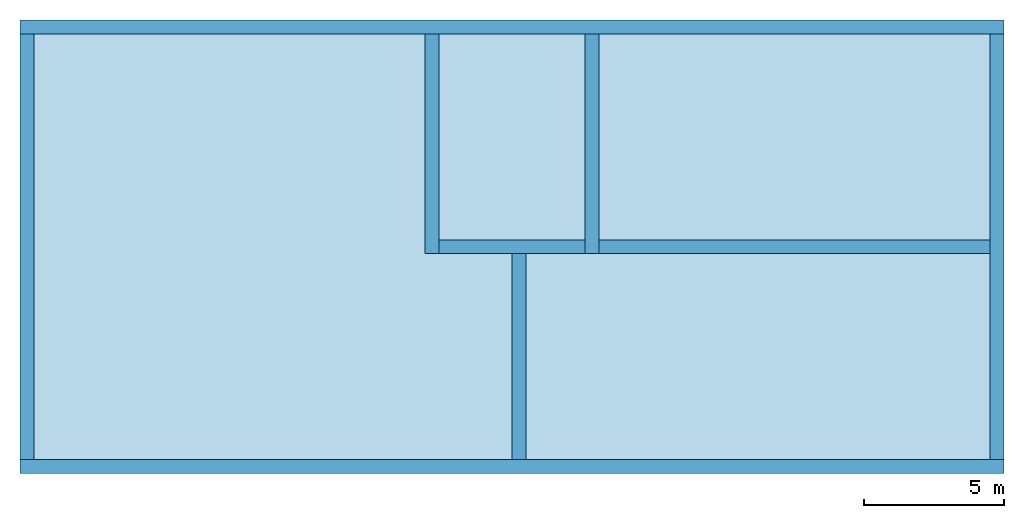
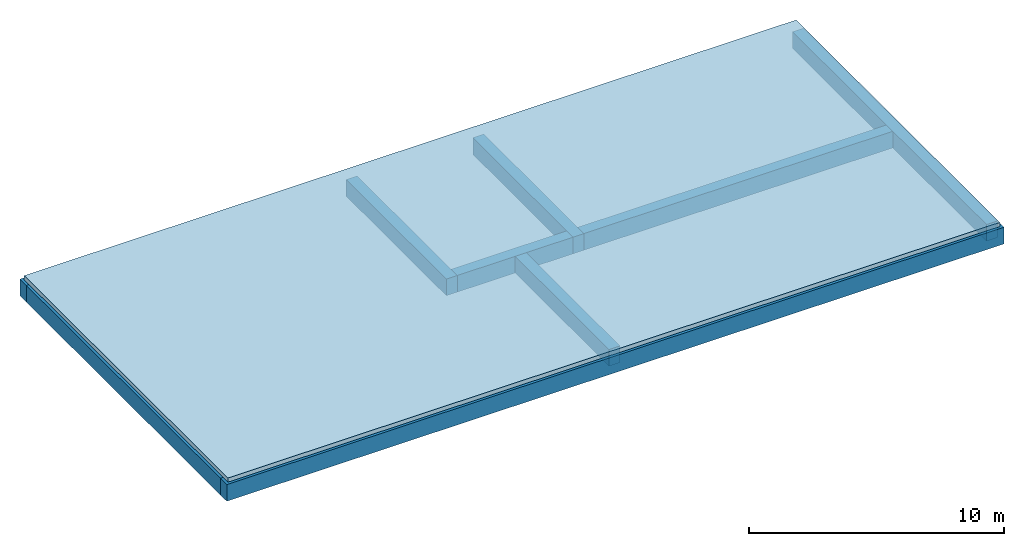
# One storey: 9 beams, 1 slab.
"""IFC4 building model written with IfcOpenShell, lengths in metres."""

from ifc_helpers import new_model, entity, si_unit, converted_unit, frame, origin_with_axes, origin_2d_with_axis, place, context, subcontext, project, spatial, line, indexed_curve, rectangle, outline, extrude, material, layer, layer_set, layer_usage, material_profile, profile_set, profile_usage, type_object, element, save


model = new_model("IFC4")

# Units and contexts
model_context = context("Model", 3, precision=1e-05, world=origin_with_axes())
plan_context = context("Plan", 2, precision=1e-05, world=origin_2d_with_axis())
body_context = subcontext(model_context, "Body", "Model", "MODEL_VIEW")
ifc_project = project(units=[converted_unit("PLANEANGLEUNIT", "degree", entity("IfcReal", 0.0174532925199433), si_unit("PLANEANGLEUNIT", "RADIAN"), dimensions=[0, 0, 0, 0, 0, 0, 0]), si_unit("AREAUNIT", "SQUARE_METRE"), si_unit("VOLUMEUNIT", "CUBIC_METRE"), si_unit("LENGTHUNIT", "METRE")], contexts=[model_context, plan_context])

# Site, building, storey
site_placement = place(None, origin_with_axes())
site = spatial("IfcSite", under=ifc_project, at=site_placement, Name="My Site")
building_placement = place(site_placement, origin_with_axes())
building = spatial("IfcBuilding", under=site, at=building_placement, Name="Werkhalle")
storey_placement = place(building_placement, frame((0.0, 0.0, -1.0), z_axis=(0.0, 0.0, 1.0), x_axis=(1.0, 0.0, 0.0)))
storey = spatial("IfcBuildingStorey", under=building, at=storey_placement, Name="01 Gruendung")

# Beams
ifc_material = material(Name="C 25/30", Category="Beton")
ifc_material_profile = material_profile(ifc_material, rectangle(XDim=0.5, YDim=0.800000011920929))
ifc_profile_set = profile_set([ifc_material_profile], Name="Beton 50 / 80")
ifc_profile_usage_1 = profile_usage(ifc_profile_set, cardinal=3)
beam_type = type_object("IfcBeamType", Name="Beton", PredefinedType="NOTDEFINED", material=ifc_profile_set)
beam_1_placement = place(storey_placement, frame((-0.119999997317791, -0.119999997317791, 0.0), z_axis=(0.999999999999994, -7.54979012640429e-08, 7.54979012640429e-08), x_axis=(7.54979012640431e-08, 0.999999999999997, 7.16093850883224e-15)))
element("IfcBeam", 1, at=beam_1_placement, inside=storey, type_object=beam_type, material=ifc_profile_usage_1, Name="Fundament 1", context=body_context, shape_type="SweptSolid", body=[
    extrude(rectangle(XDim=0.5, YDim=0.800000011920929), frame((0.25, 0.400000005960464, 0.0), z_axis=(0.0, 0.0, 1.0), x_axis=(1.0, 0.0, 0.0)), (0.0, 0.0, 1.0), 35.2400009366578),
])
ifc_profile_usage_2 = profile_usage(ifc_profile_set, cardinal=3)
beam_2_placement = place(storey_placement, frame((-0.119999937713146, 15.6199998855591, 0.0), z_axis=(0.999999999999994, -7.54979012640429e-08, 7.54979012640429e-08), x_axis=(7.54979012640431e-08, 0.999999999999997, 7.16093850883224e-15)))
element("IfcBeam", 2, at=beam_2_placement, inside=storey, type_object=beam_type, material=ifc_profile_usage_2, Name="Fundament 1", context=body_context, shape_type="SweptSolid", body=[
    extrude(rectangle(XDim=0.5, YDim=0.800000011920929), frame((0.25, 0.400000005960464, 0.0), z_axis=(0.0, 0.0, 1.0), x_axis=(1.0, 0.0, 0.0)), (0.0, 0.0, 1.0), 35.2400009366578),
])
ifc_profile_usage_3 = profile_usage(ifc_profile_set, cardinal=1)
beam_3_placement = place(storey_placement, frame((34.6199989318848, 0.380000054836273, 1.13248825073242e-06), z_axis=(1.50995802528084e-07, 0.999999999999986, 7.54979012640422e-08), x_axis=(-0.999999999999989, 1.50995802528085e-07, 0.0)))
element("IfcBeam", 3, at=beam_3_placement, inside=storey, type_object=beam_type, material=ifc_profile_usage_3, Name="Fundament 1.002", context=body_context, shape_type="SweptSolid", body=[
    extrude(rectangle(XDim=0.5, YDim=0.800000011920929), frame((-0.25, 0.400000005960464, 0.0), z_axis=(0.0, 0.0, 1.0), x_axis=(1.0, 0.0, 0.0)), (0.0, 0.0, 1.0), 15.2399999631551),
])
ifc_profile_usage_4 = profile_usage(ifc_profile_set, cardinal=1)
beam_4_placement = place(storey_placement, frame((-0.119999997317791, 0.380000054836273, 1.13248825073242e-06), z_axis=(1.50995802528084e-07, 0.999999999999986, 7.54979012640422e-08), x_axis=(-0.999999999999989, 1.50995802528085e-07, -1.00485924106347e-14)))
element("IfcBeam", 4, at=beam_4_placement, inside=storey, type_object=beam_type, material=ifc_profile_usage_4, Name="Fundament 1.003", context=body_context, shape_type="SweptSolid", body=[
    extrude(rectangle(XDim=0.5, YDim=0.800000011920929), frame((-0.25, 0.400000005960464, 0.0), z_axis=(0.0, 0.0, 1.0), x_axis=(1.0, 0.0, 0.0)), (0.0, 0.0, 1.0), 15.2399999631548),
])
ifc_profile_usage_5 = profile_usage(ifc_profile_set, cardinal=1)
beam_5_placement = place(storey_placement, frame((20.1200008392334, 7.75, 0.0), z_axis=(1.50995802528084e-07, 0.999999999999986, 7.54979012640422e-08), x_axis=(-0.999999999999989, 1.50995802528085e-07, 0.0)))
element("IfcBeam", 5, at=beam_5_placement, inside=storey, type_object=beam_type, material=ifc_profile_usage_5, Name="Fundament 2.001", context=body_context, shape_type="SweptSolid", body=[
    extrude(rectangle(XDim=0.5, YDim=0.800000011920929), frame((-0.25, 0.400000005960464, 0.0), z_axis=(0.0, 0.0, 1.0), x_axis=(1.0, 0.0, 0.0)), (0.0, 0.0, 1.0), 7.86999885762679),
])
ifc_profile_usage_6 = profile_usage(ifc_profile_set, cardinal=1)
beam_6_placement = place(storey_placement, frame((17.5, 0.379999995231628, 0.0), z_axis=(1.50995802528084e-07, 0.999999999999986, 7.54979012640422e-08), x_axis=(-0.999999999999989, 1.50995802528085e-07, 0.0)))
element("IfcBeam", 6, at=beam_6_placement, inside=storey, type_object=beam_type, material=ifc_profile_usage_6, Name="Fundament 2.004", context=body_context, shape_type="SweptSolid", body=[
    extrude(rectangle(XDim=0.5, YDim=0.800000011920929), frame((-0.25, 0.400000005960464, 0.0), z_axis=(0.0, 0.0, 1.0), x_axis=(1.0, 0.0, 0.0)), (0.0, 0.0, 1.0), 7.37000040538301),
])
ifc_profile_usage_7 = profile_usage(ifc_profile_set, cardinal=3)
beam_7_placement = place(storey_placement, frame((14.8800001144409, 7.75, 0.0), z_axis=(0.999999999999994, -7.54979012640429e-08, 7.54979012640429e-08), x_axis=(7.54979012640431e-08, 0.999999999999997, 7.16093850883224e-15)))
element("IfcBeam", 7, at=beam_7_placement, inside=storey, type_object=beam_type, material=ifc_profile_usage_7, Name="Fundament 2.003", context=body_context, shape_type="SweptSolid", body=[
    extrude(rectangle(XDim=0.5, YDim=0.800000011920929), frame((0.25, 0.400000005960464, 0.0), z_axis=(0.0, 0.0, 1.0), x_axis=(1.0, 0.0, 0.0)), (0.0, 0.0, 1.0), 5.24000069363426),
])
ifc_profile_usage_8 = profile_usage(ifc_profile_set, cardinal=3)
beam_8_placement = place(storey_placement, frame((20.6200008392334, 7.75, 0.0), z_axis=(0.999999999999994, -7.54979012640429e-08, 7.54979012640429e-08), x_axis=(7.54979012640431e-08, 0.999999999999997, 7.16093850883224e-15)))
element("IfcBeam", 8, at=beam_8_placement, inside=storey, type_object=beam_type, material=ifc_profile_usage_8, Name="Fundament 2.002", context=body_context, shape_type="SweptSolid", body=[
    extrude(rectangle(XDim=0.5, YDim=0.800000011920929), frame((0.25, 0.400000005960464, 0.0), z_axis=(0.0, 0.0, 1.0), x_axis=(1.0, 0.0, 0.0)), (0.0, 0.0, 1.0), 13.9999983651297),
])
ifc_profile_usage_9 = profile_usage(ifc_profile_set, cardinal=1)
beam_9_placement = place(storey_placement, frame((14.3800001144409, 7.75, 0.0), z_axis=(1.50995802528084e-07, 0.999999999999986, 7.54979012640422e-08), x_axis=(-0.999999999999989, 1.50995802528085e-07, 0.0)))
element("IfcBeam", 9, at=beam_9_placement, inside=storey, type_object=beam_type, material=ifc_profile_usage_9, Name="Fundament 2", context=body_context, shape_type="SweptSolid", body=[
    extrude(rectangle(XDim=0.5, YDim=0.800000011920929), frame((-0.25, 0.400000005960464, 0.0), z_axis=(0.0, 0.0, 1.0), x_axis=(1.0, 0.0, 0.0)), (0.0, 0.0, 1.0), 7.86999982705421),
])

# Slab
ifc_layer = layer(ifc_material, 0.200000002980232)
ifc_layer_set = layer_set([ifc_layer], Name="Beton 20 cm")
ifc_layer_usage = layer_usage(ifc_layer_set, "AXIS3", "POSITIVE", 0.0)
slab_type = type_object("IfcSlabType", Name="Beton", PredefinedType="NOTDEFINED", material=ifc_layer_set)
slab_placement = place(storey_placement, frame((0.0, 0.0, 0.799999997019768), z_axis=(0.0, 0.0, 1.0), x_axis=(1.0, 0.0, 0.0)))
element("IfcSlab", 10, at=slab_placement, inside=storey, type_object=slab_type, material=ifc_layer_usage, Name="Bodennplatte", PredefinedType="BASESLAB", context=body_context, shape_type="SweptSolid", body=[
    extrude(outline(indexed_curve([(0.0, 0.0), (35.0, 0.0), (35.0, 16.0), (0.0, 16.0)], segments=[line(4, 1), line(1, 2), line(2, 3), line(3, 4)], self_intersect=False)), None, (0.0, 0.0, 1.0), 0.200000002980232),
])

save(model, "model.ifc")
